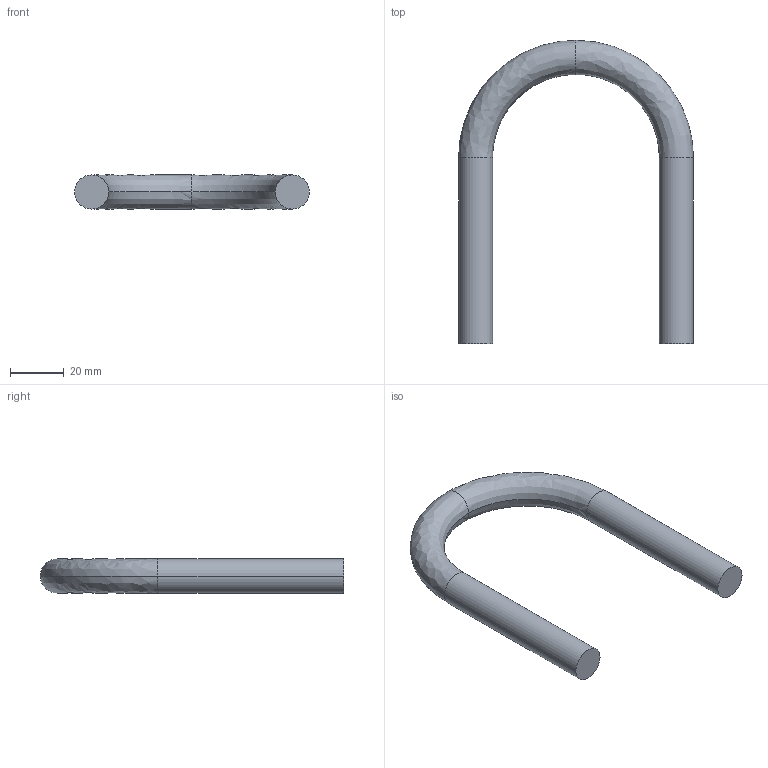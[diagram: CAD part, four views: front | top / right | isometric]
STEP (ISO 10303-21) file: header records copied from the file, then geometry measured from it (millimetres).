
FILE_DESCRIPTION(('TurboCAD Mac Pro'),'Build 980');
FILE_NAME('FUB-200.stp',' ',(''),(''),'ACIS Interop','IMSI','TurboCAD Mac Pro BY IMSI, INCORPORATED');
FILE_SCHEMA(('automotive_design'));
Length unit declared in the file: inch
Products named in the file (2): 1; 2
Bounding box: 87.3 x 112.7 x 12.7 mm (x, y, z)
Volume: 32314.8 mm3; surface area: 10435.7 mm2
Topology: 1 solids, 1 shells, 10 faces, 18 edges, 10 vertices
Faces by surface type: bspline 4, cylinder 4, plane 2
Entity records: 676 total; most frequent: CARTESIAN_POINT 330, DIRECTION 42, ORIENTED_EDGE 36, AXIS2_PLACEMENT_3D 18, EDGE_CURVE 18, STYLED_ITEM 15, PRESENTATION_STYLE_ASSIGNMENT 15, COLOUR_RGB 15
